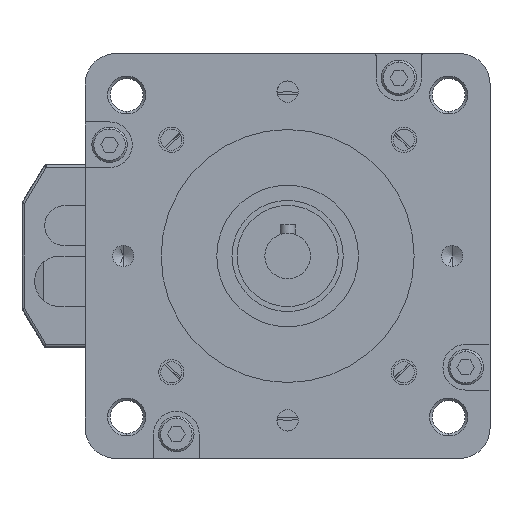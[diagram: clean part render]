
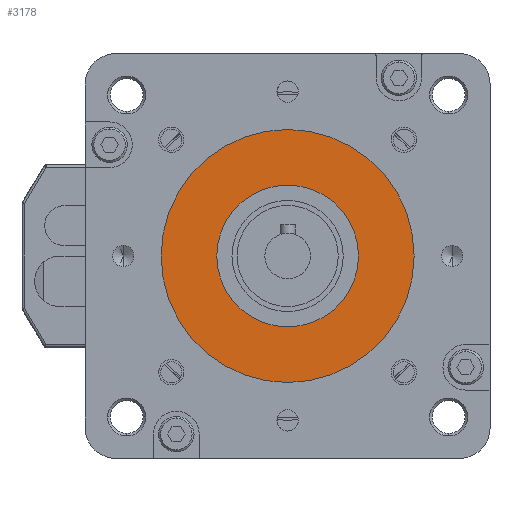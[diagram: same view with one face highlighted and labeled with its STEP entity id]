
A CAD part, front view. The second image highlights one B-rep face of the part: STEP entity #3178.
In plain terms, the highlighted planar face has unit normal (0, -1, 0).
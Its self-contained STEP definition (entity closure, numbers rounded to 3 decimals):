
#804 = PLANE ( 'NONE',  #21847 ) ;
#1722 = AXIS2_PLACEMENT_3D ( 'NONE', #21344, #18881, #10924 ) ;
#3178 = ADVANCED_FACE ( 'NONE', ( #5068, #19634 ), #804, .T. ) ;
#4890 = VERTEX_POINT ( 'NONE', #17202 ) ;
#5068 = FACE_BOUND ( 'NONE', #17583, .T. ) ;
#5552 = EDGE_LOOP ( 'NONE', ( #27149, #25070 ) ) ;
#6271 = ORIENTED_EDGE ( 'NONE', *, *, #13262, .T. ) ;
#6848 = VERTEX_POINT ( 'NONE', #7509 ) ;
#7143 = DIRECTION ( 'NONE',  ( 0., 0., -1. ) ) ;
#7509 = CARTESIAN_POINT ( 'NONE',  ( 25., -3., 0. ) ) ;
#8175 = CIRCLE ( 'NONE', #11674, 25. ) ;
#8818 = DIRECTION ( 'NONE',  ( 0., -1., 0. ) ) ;
#9218 = CARTESIAN_POINT ( 'NONE',  ( 0., -3., 0. ) ) ;
#10610 = EDGE_CURVE ( 'NONE', #11800, #6848, #25429, .T. ) ;
#10924 = DIRECTION ( 'NONE',  ( -1., 0., 0. ) ) ;
#11674 = AXIS2_PLACEMENT_3D ( 'NONE', #20657, #11877, #18315 ) ;
#11800 = VERTEX_POINT ( 'NONE', #16661 ) ;
#11877 = DIRECTION ( 'NONE',  ( 0., -1., 0. ) ) ;
#13262 = EDGE_CURVE ( 'NONE', #22295, #4890, #26685, .T. ) ;
#13551 = DIRECTION ( 'NONE',  ( 0., 1., 0. ) ) ;
#15105 = CARTESIAN_POINT ( 'NONE',  ( 14., -3., 0. ) ) ;
#15431 = ORIENTED_EDGE ( 'NONE', *, *, #22160, .T. ) ;
#16013 = AXIS2_PLACEMENT_3D ( 'NONE', #16882, #13551, #19078 ) ;
#16661 = CARTESIAN_POINT ( 'NONE',  ( -25., -3., 0. ) ) ;
#16882 = CARTESIAN_POINT ( 'NONE',  ( 0., -3., 0. ) ) ;
#17202 = CARTESIAN_POINT ( 'NONE',  ( -14., -3., 0. ) ) ;
#17583 = EDGE_LOOP ( 'NONE', ( #6271, #15431 ) ) ;
#18315 = DIRECTION ( 'NONE',  ( 1., 0., 0. ) ) ;
#18780 = AXIS2_PLACEMENT_3D ( 'NONE', #26952, #26818, #27078 ) ;
#18881 = DIRECTION ( 'NONE',  ( 0., -1., 0. ) ) ;
#19078 = DIRECTION ( 'NONE',  ( -1., 0., 0. ) ) ;
#19634 = FACE_OUTER_BOUND ( 'NONE', #5552, .T. ) ;
#20657 = CARTESIAN_POINT ( 'NONE',  ( 0., -3., 0. ) ) ;
#20838 = CIRCLE ( 'NONE', #16013, 14. ) ;
#21344 = CARTESIAN_POINT ( 'NONE',  ( 0., -3., 0. ) ) ;
#21819 = EDGE_CURVE ( 'NONE', #6848, #11800, #8175, .T. ) ;
#21847 = AXIS2_PLACEMENT_3D ( 'NONE', #9218, #8818, #7143 ) ;
#22160 = EDGE_CURVE ( 'NONE', #4890, #22295, #20838, .T. ) ;
#22295 = VERTEX_POINT ( 'NONE', #15105 ) ;
#25070 = ORIENTED_EDGE ( 'NONE', *, *, #21819, .T. ) ;
#25429 = CIRCLE ( 'NONE', #1722, 25. ) ;
#26685 = CIRCLE ( 'NONE', #18780, 14. ) ;
#26818 = DIRECTION ( 'NONE',  ( 0., 1., 0. ) ) ;
#26952 = CARTESIAN_POINT ( 'NONE',  ( 0., -3., 0. ) ) ;
#27078 = DIRECTION ( 'NONE',  ( 1., 0., 0. ) ) ;
#27149 = ORIENTED_EDGE ( 'NONE', *, *, #10610, .T. ) ;
